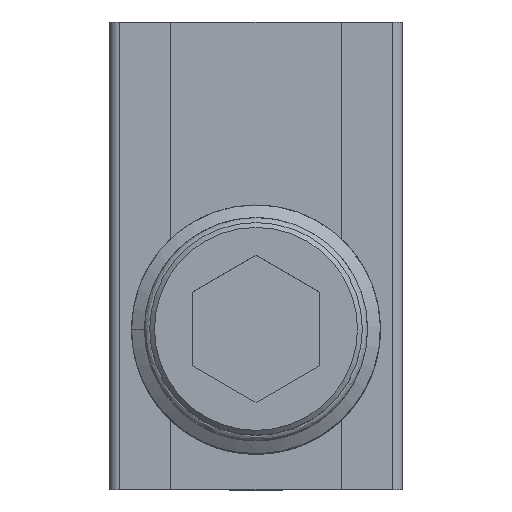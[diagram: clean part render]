
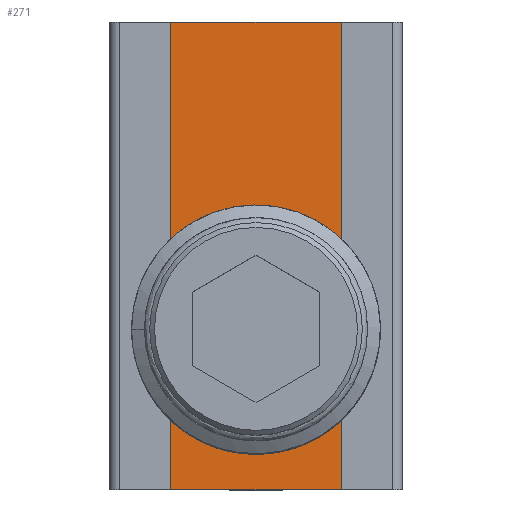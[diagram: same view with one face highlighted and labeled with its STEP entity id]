
A CAD part, top view. The second image highlights one B-rep face of the part: STEP entity #271.
In plain terms, the highlighted planar face has unit normal (0, 0, 1).
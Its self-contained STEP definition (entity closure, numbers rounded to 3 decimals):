
#70 = ORIENTED_EDGE ( 'NONE', *, *, #4625, .F. ) ;
#271 = ADVANCED_FACE ( 'NONE', ( #3231, #5765 ), #1299, .T. ) ;
#358 = CIRCLE ( 'NONE', #2856, 3.324 ) ;
#473 = LINE ( 'NONE', #5426, #5951 ) ;
#584 = VERTEX_POINT ( 'NONE', #2466 ) ;
#809 = DIRECTION ( 'NONE',  ( 0., 1., 0. ) ) ;
#916 = VERTEX_POINT ( 'NONE', #3623 ) ;
#1006 = DIRECTION ( 'NONE',  ( 1., 0., 0. ) ) ;
#1050 = ORIENTED_EDGE ( 'NONE', *, *, #2211, .T. ) ;
#1145 = DIRECTION ( 'NONE',  ( 0., -1., 0. ) ) ;
#1289 = CARTESIAN_POINT ( 'NONE',  ( 4., -7.5, -17. ) ) ;
#1299 = PLANE ( 'NONE',  #4983 ) ;
#1505 = EDGE_LOOP ( 'NONE', ( #1050, #70, #2314, #4812 ) ) ;
#1528 = LINE ( 'NONE', #5494, #4904 ) ;
#1716 = VECTOR ( 'NONE', #3510, 1000. ) ;
#1931 = CARTESIAN_POINT ( 'NONE',  ( 4., 14.5, -17. ) ) ;
#1953 = EDGE_CURVE ( 'NONE', #2161, #916, #473, .T. ) ;
#2134 = CARTESIAN_POINT ( 'NONE',  ( -4., 14.5, -17. ) ) ;
#2161 = VERTEX_POINT ( 'NONE', #4325 ) ;
#2211 = EDGE_CURVE ( 'NONE', #916, #3831, #2749, .T. ) ;
#2314 = ORIENTED_EDGE ( 'NONE', *, *, #5658, .T. ) ;
#2466 = CARTESIAN_POINT ( 'NONE',  ( 0., -3.324, -17. ) ) ;
#2571 = EDGE_LOOP ( 'NONE', ( #5073 ) ) ;
#2749 = LINE ( 'NONE', #1289, #4475 ) ;
#2856 = AXIS2_PLACEMENT_3D ( 'NONE', #5137, #5191, #1145 ) ;
#3231 = FACE_BOUND ( 'NONE', #2571, .T. ) ;
#3510 = DIRECTION ( 'NONE',  ( 0., -1., 0. ) ) ;
#3623 = CARTESIAN_POINT ( 'NONE',  ( 4., -7.5, -17. ) ) ;
#3831 = VERTEX_POINT ( 'NONE', #1931 ) ;
#4149 = CARTESIAN_POINT ( 'NONE',  ( 4., -7.5, -17. ) ) ;
#4160 = CARTESIAN_POINT ( 'NONE',  ( -4., -7.5, -17. ) ) ;
#4325 = CARTESIAN_POINT ( 'NONE',  ( -4., -7.5, -17. ) ) ;
#4475 = VECTOR ( 'NONE', #4748, 1000. ) ;
#4499 = DIRECTION ( 'NONE',  ( 1., 0., 0. ) ) ;
#4625 = EDGE_CURVE ( 'NONE', #5737, #3831, #1528, .T. ) ;
#4748 = DIRECTION ( 'NONE',  ( 0., 1., 0. ) ) ;
#4812 = ORIENTED_EDGE ( 'NONE', *, *, #1953, .T. ) ;
#4904 = VECTOR ( 'NONE', #4499, 1000. ) ;
#4983 = AXIS2_PLACEMENT_3D ( 'NONE', #4149, #5701, #809 ) ;
#5073 = ORIENTED_EDGE ( 'NONE', *, *, #6221, .T. ) ;
#5137 = CARTESIAN_POINT ( 'NONE',  ( 0., 0., -17. ) ) ;
#5191 = DIRECTION ( 'NONE',  ( 0., 0., -1. ) ) ;
#5426 = CARTESIAN_POINT ( 'NONE',  ( 0., -7.5, -17. ) ) ;
#5494 = CARTESIAN_POINT ( 'NONE',  ( 0., 14.5, -17. ) ) ;
#5588 = LINE ( 'NONE', #4160, #1716 ) ;
#5658 = EDGE_CURVE ( 'NONE', #5737, #2161, #5588, .T. ) ;
#5701 = DIRECTION ( 'NONE',  ( 0., 0., 1. ) ) ;
#5737 = VERTEX_POINT ( 'NONE', #2134 ) ;
#5765 = FACE_OUTER_BOUND ( 'NONE', #1505, .T. ) ;
#5951 = VECTOR ( 'NONE', #1006, 1000. ) ;
#6221 = EDGE_CURVE ( 'NONE', #584, #584, #358, .T. ) ;
